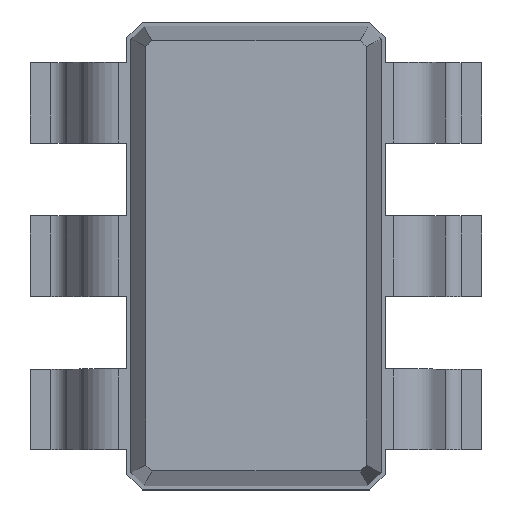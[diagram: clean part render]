
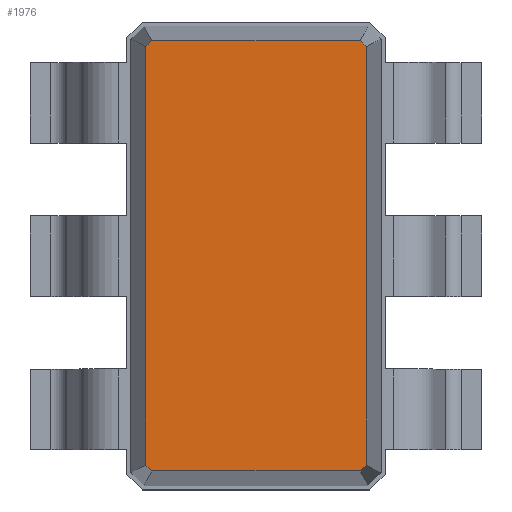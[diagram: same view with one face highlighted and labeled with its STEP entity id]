
A CAD part, top view. The second image highlights one B-rep face of the part: STEP entity #1976.
In plain terms, the highlighted planar face has unit normal (0, 0, 1).
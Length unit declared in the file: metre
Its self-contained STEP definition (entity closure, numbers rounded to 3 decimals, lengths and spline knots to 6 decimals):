
#315=ORIENTED_EDGE('',*,*,#844,.F.);
#316=ORIENTED_EDGE('',*,*,#845,.F.);
#317=ORIENTED_EDGE('',*,*,#846,.F.);
#318=ORIENTED_EDGE('',*,*,#841,.F.);
#319=ORIENTED_EDGE('',*,*,#832,.F.);
#320=ORIENTED_EDGE('',*,*,#839,.F.);
#321=ORIENTED_EDGE('',*,*,#847,.F.);
#322=ORIENTED_EDGE('',*,*,#848,.F.);
#832=EDGE_CURVE('',#1078,#1079,#1270,.T.);
#839=EDGE_CURVE('',#1084,#1078,#1275,.T.);
#841=EDGE_CURVE('',#1079,#1085,#1277,.T.);
#844=EDGE_CURVE('',#1087,#1088,#1280,.T.);
#845=EDGE_CURVE('',#1089,#1087,#1281,.T.);
#846=EDGE_CURVE('',#1085,#1089,#1282,.T.);
#847=EDGE_CURVE('',#1090,#1084,#1283,.T.);
#848=EDGE_CURVE('',#1088,#1090,#1284,.T.);
#1078=VERTEX_POINT('',#3228);
#1079=VERTEX_POINT('',#3230);
#1084=VERTEX_POINT('',#3243);
#1085=VERTEX_POINT('',#3248);
#1087=VERTEX_POINT('',#3254);
#1088=VERTEX_POINT('',#3255);
#1089=VERTEX_POINT('',#3257);
#1090=VERTEX_POINT('',#3260);
#1270=LINE('',#3229,#1508);
#1275=LINE('',#3244,#1513);
#1277=LINE('',#3247,#1515);
#1280=LINE('',#3253,#1518);
#1281=LINE('',#3256,#1519);
#1282=LINE('',#3258,#1520);
#1283=LINE('',#3259,#1521);
#1284=LINE('',#3261,#1522);
#1508=VECTOR('',#2657,1.);
#1513=VECTOR('',#2670,1.);
#1515=VECTOR('',#2674,1.);
#1518=VECTOR('',#2679,1.);
#1519=VECTOR('',#2680,1.);
#1520=VECTOR('',#2681,1.);
#1521=VECTOR('',#2682,1.);
#1522=VECTOR('',#2683,1.);
#1683=EDGE_LOOP('',(#315,#316,#317,#318,#319,#320,#321,#322));
#1789=FACE_BOUND('',#1683,.T.);
#1878=PLANE('',#2315);
#1976=ADVANCED_FACE('',(#1789),#1878,.T.);
#2315=AXIS2_PLACEMENT_3D('',#3252,#2677,#2678);
#2657=DIRECTION('',(-1.,0.,0.));
#2670=DIRECTION('',(-0.707,-0.707,0.));
#2674=DIRECTION('',(-0.707,0.707,0.));
#2677=DIRECTION('',(0.,0.,1.));
#2678=DIRECTION('',(0.436,-0.9,0.));
#2679=DIRECTION('',(1.,0.,0.));
#2680=DIRECTION('',(0.707,0.707,0.));
#2681=DIRECTION('',(0.,1.,0.));
#2682=DIRECTION('',(0.,-1.,0.));
#2683=DIRECTION('',(0.707,-0.707,0.));
#3228=CARTESIAN_POINT('',(0.157009,-0.125451,0.003145));
#3229=CARTESIAN_POINT('',(0.157009,-0.125451,0.003145));
#3230=CARTESIAN_POINT('',(0.155716,-0.125451,0.003145));
#3243=CARTESIAN_POINT('',(0.157046,-0.125414,0.003145));
#3244=CARTESIAN_POINT('',(0.157046,-0.125414,0.003145));
#3247=CARTESIAN_POINT('',(0.155716,-0.125451,0.003145));
#3248=CARTESIAN_POINT('',(0.155679,-0.125414,0.003145));
#3252=CARTESIAN_POINT('',(0.155716,-0.122784,0.003145));
#3253=CARTESIAN_POINT('',(0.155716,-0.122784,0.003145));
#3254=CARTESIAN_POINT('',(0.155716,-0.122784,0.003145));
#3255=CARTESIAN_POINT('',(0.157009,-0.122784,0.003145));
#3256=CARTESIAN_POINT('',(0.155679,-0.122821,0.003145));
#3257=CARTESIAN_POINT('',(0.155679,-0.122821,0.003145));
#3258=CARTESIAN_POINT('',(0.155679,-0.125414,0.003145));
#3259=CARTESIAN_POINT('',(0.157046,-0.122821,0.003145));
#3260=CARTESIAN_POINT('',(0.157046,-0.122821,0.003145));
#3261=CARTESIAN_POINT('',(0.157009,-0.122784,0.003145));
